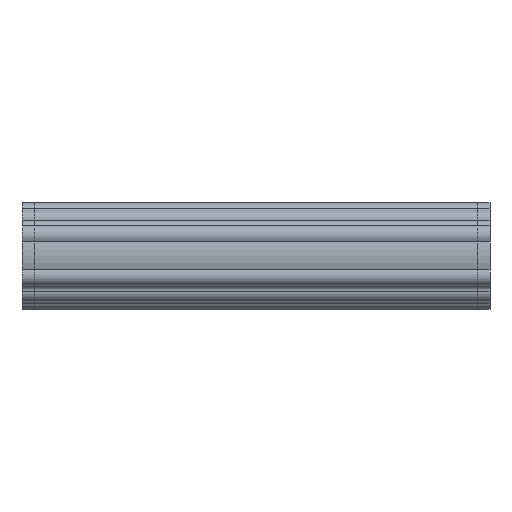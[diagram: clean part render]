
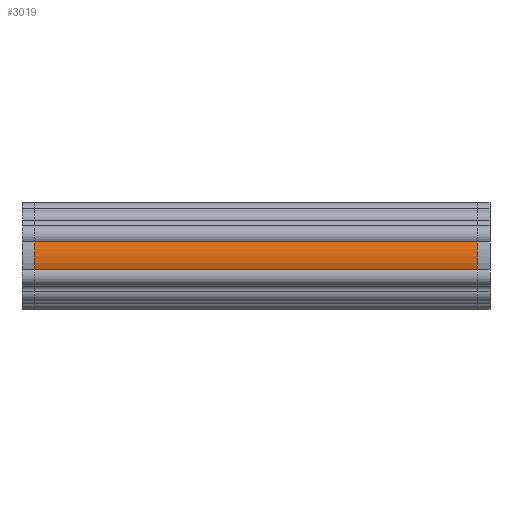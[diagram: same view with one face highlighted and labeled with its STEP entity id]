
A CAD part, front view. The second image highlights one B-rep face of the part: STEP entity #3019.
In plain terms, the highlighted cylindrical face has radius 31 mm (diameter 62 mm), a partial arc.
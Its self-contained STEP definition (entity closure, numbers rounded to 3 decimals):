
#126 = EDGE_CURVE ( 'NONE', #434, #1869, #2995, .T. ) ;
#189 = LINE ( 'NONE', #1499, #231 ) ;
#231 = VECTOR ( 'NONE', #357, 1000. ) ;
#257 = DIRECTION ( 'NONE',  ( 1., 0., 0. ) ) ;
#267 = EDGE_LOOP ( 'NONE', ( #841, #3532, #2620, #2558 ) ) ;
#295 = DIRECTION ( 'NONE',  ( 0., 0., -1. ) ) ;
#330 = DIRECTION ( 'NONE',  ( 1., 0., 0. ) ) ;
#357 = DIRECTION ( 'NONE',  ( 1., 0., 0. ) ) ;
#434 = VERTEX_POINT ( 'NONE', #3179 ) ;
#841 = ORIENTED_EDGE ( 'NONE', *, *, #1521, .F. ) ;
#842 = LINE ( 'NONE', #1609, #2406 ) ;
#896 = DIRECTION ( 'NONE',  ( 1., 0., 0. ) ) ;
#968 = CARTESIAN_POINT ( 'NONE',  ( 142., -29.762, -8.673 ) ) ;
#1067 = CIRCLE ( 'NONE', #3169, 31. ) ;
#1184 = EDGE_CURVE ( 'NONE', #2108, #2533, #1067, .T. ) ;
#1499 = CARTESIAN_POINT ( 'NONE',  ( -150.002, -29.762, -8.673 ) ) ;
#1503 = CARTESIAN_POINT ( 'NONE',  ( -150.002, 0., 0. ) ) ;
#1521 = EDGE_CURVE ( 'NONE', #2108, #434, #842, .T. ) ;
#1609 = CARTESIAN_POINT ( 'NONE',  ( -150.002, -29.655, 9.032 ) ) ;
#1733 = CARTESIAN_POINT ( 'NONE',  ( -142., 0., 0. ) ) ;
#1805 = FACE_OUTER_BOUND ( 'NONE', #267, .T. ) ;
#1869 = VERTEX_POINT ( 'NONE', #968 ) ;
#1965 = AXIS2_PLACEMENT_3D ( 'NONE', #2542, #896, #295 ) ;
#2108 = VERTEX_POINT ( 'NONE', #2755 ) ;
#2389 = CARTESIAN_POINT ( 'NONE',  ( -142., -29.762, -8.673 ) ) ;
#2406 = VECTOR ( 'NONE', #257, 1000. ) ;
#2533 = VERTEX_POINT ( 'NONE', #2389 ) ;
#2542 = CARTESIAN_POINT ( 'NONE',  ( 142., 0., 0. ) ) ;
#2558 = ORIENTED_EDGE ( 'NONE', *, *, #126, .F. ) ;
#2602 = DIRECTION ( 'NONE',  ( 1., 0., 0. ) ) ;
#2620 = ORIENTED_EDGE ( 'NONE', *, *, #3486, .T. ) ;
#2719 = CYLINDRICAL_SURFACE ( 'NONE', #3476, 31. ) ;
#2755 = CARTESIAN_POINT ( 'NONE',  ( -142., -29.655, 9.032 ) ) ;
#2995 = CIRCLE ( 'NONE', #1965, 31. ) ;
#3019 = ADVANCED_FACE ( 'NONE', ( #1805 ), #2719, .T. ) ;
#3169 = AXIS2_PLACEMENT_3D ( 'NONE', #1733, #330, #3297 ) ;
#3179 = CARTESIAN_POINT ( 'NONE',  ( 142., -29.655, 9.032 ) ) ;
#3297 = DIRECTION ( 'NONE',  ( 0., 0., 1. ) ) ;
#3456 = DIRECTION ( 'NONE',  ( 0., 0., -1. ) ) ;
#3476 = AXIS2_PLACEMENT_3D ( 'NONE', #1503, #2602, #3456 ) ;
#3486 = EDGE_CURVE ( 'NONE', #2533, #1869, #189, .T. ) ;
#3532 = ORIENTED_EDGE ( 'NONE', *, *, #1184, .T. ) ;
